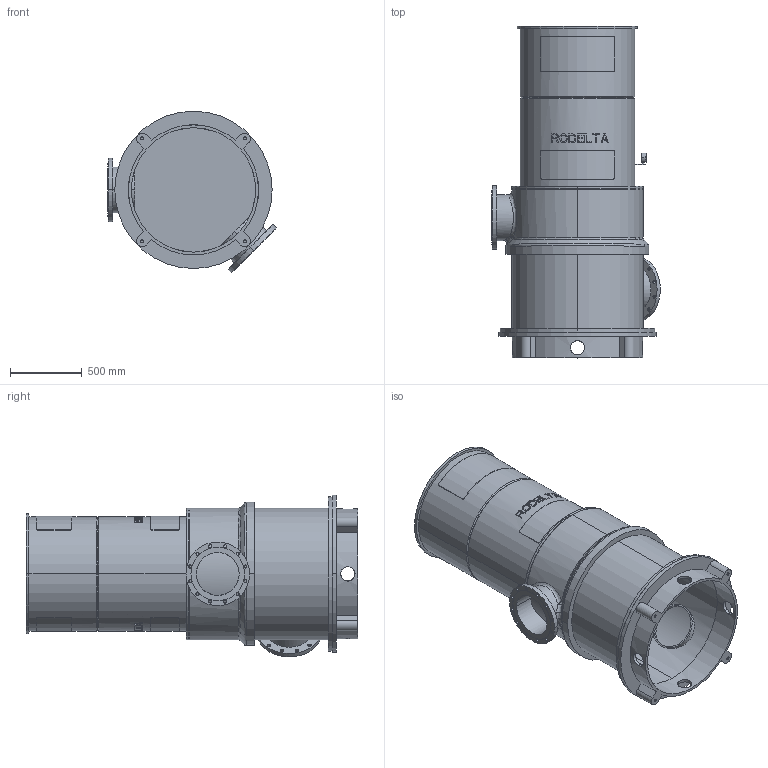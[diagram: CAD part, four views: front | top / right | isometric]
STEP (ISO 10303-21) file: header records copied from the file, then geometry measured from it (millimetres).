
FILE_DESCRIPTION((''),'2;1');
FILE_NAME('LS12_1TR_0GR','2023-08-10T',('Lyritlocal'),(''),'PRO/ENGINEER BY PARAMETRIC TECHNOLOGY CORPORATION, 2016360','PRO/ENGINEER BY PARAMETRIC TECHNOLOGY CORPORATION, 2016360','');
FILE_SCHEMA(('CONFIG_CONTROL_DESIGN'));
Length unit declared in the file: millimetre
Products named in the file (1): LS12_1TR_0GR
Bounding box: 1179.47 x 2320 x 1129.47 mm (x, y, z)
Volume: 127220529.7 mm3; surface area: 16689509.7 mm2
Topology: 3 solids, 7 shells, 559 faces, 1467 edges, 971 vertices
Faces by surface type: plane 335, cylinder 198, cone 13, bspline 10, torus 3
Entity records: 18733 total; most frequent: CARTESIAN_POINT 5135, ORIENTED_EDGE 2918, DIRECTION 2627, EDGE_CURVE 1467, AXIS2_PLACEMENT_3D 998, VERTEX_POINT 971, EDGE_LOOP 676, VECTOR 631
